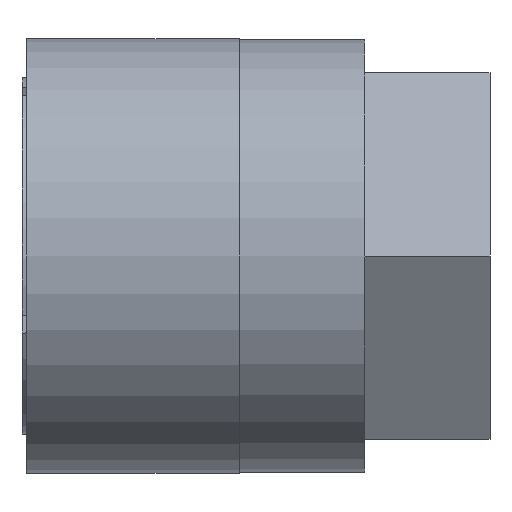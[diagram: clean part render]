
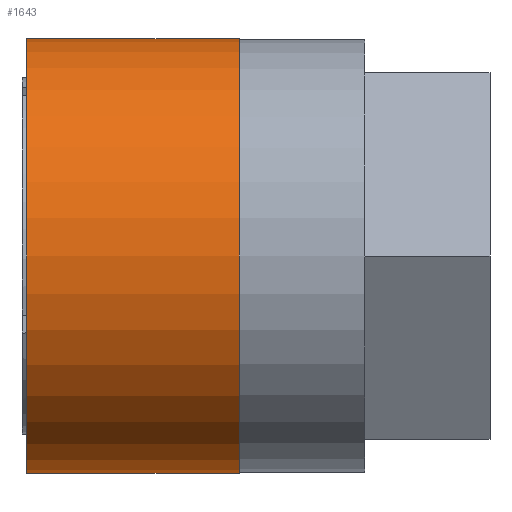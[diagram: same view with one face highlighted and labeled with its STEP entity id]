
A CAD part, front view. The second image highlights one B-rep face of the part: STEP entity #1643.
In plain terms, the highlighted cylindrical face has radius 22.5 mm (diameter 45 mm), a partial arc.
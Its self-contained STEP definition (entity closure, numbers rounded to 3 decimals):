
#78 = ORIENTED_EDGE ( 'NONE', *, *, #287, .F. ) ;
#81 = ORIENTED_EDGE ( 'NONE', *, *, #284, .F. ) ;
#82 = ORIENTED_EDGE ( 'NONE', *, *, #281, .T. ) ;
#98 = ORIENTED_EDGE ( 'NONE', *, *, #286, .T. ) ;
#134 = AXIS2_PLACEMENT_3D ( 'NONE', #613, #639, #548 ) ;
#281 = EDGE_CURVE ( 'NONE', #935, #357, #1013, .T. ) ;
#284 = EDGE_CURVE ( 'NONE', #935, #934, #1011, .T. ) ;
#286 = EDGE_CURVE ( 'NONE', #357, #883, #1010, .T. ) ;
#287 = EDGE_CURVE ( 'NONE', #934, #883, #1023, .T. ) ;
#357 = VERTEX_POINT ( 'NONE', #471 ) ;
#396 = DIRECTION ( 'NONE',  ( 0., 0., 1. ) ) ;
#409 = DIRECTION ( 'NONE',  ( -1., 0., 0. ) ) ;
#412 = CARTESIAN_POINT ( 'NONE',  ( 0., 0., 22.5 ) ) ;
#413 = CARTESIAN_POINT ( 'NONE',  ( 0., 0., -22.5 ) ) ;
#446 = DIRECTION ( 'NONE',  ( -1., 0., 0. ) ) ;
#462 = CARTESIAN_POINT ( 'NONE',  ( 22.5, 0., 0. ) ) ;
#469 = DIRECTION ( 'NONE',  ( -1., 0., 0. ) ) ;
#471 = CARTESIAN_POINT ( 'NONE',  ( 22.5, 0., 22.5 ) ) ;
#482 = CARTESIAN_POINT ( 'NONE',  ( 0.5, 0., 22.5 ) ) ;
#484 = DIRECTION ( 'NONE',  ( 0., 0., 1. ) ) ;
#491 = CARTESIAN_POINT ( 'NONE',  ( 22.5, 0., -22.5 ) ) ;
#540 = CARTESIAN_POINT ( 'NONE',  ( 0.5, 0., -22.5 ) ) ;
#545 = CARTESIAN_POINT ( 'NONE',  ( 0.5, 0., 0. ) ) ;
#548 = DIRECTION ( 'NONE',  ( 0., 0., 1. ) ) ;
#559 = DIRECTION ( 'NONE',  ( -1., 0., 0. ) ) ;
#613 = CARTESIAN_POINT ( 'NONE',  ( 0., 0., 0. ) ) ;
#639 = DIRECTION ( 'NONE',  ( -1., 0., 0. ) ) ;
#883 = VERTEX_POINT ( 'NONE', #482 ) ;
#934 = VERTEX_POINT ( 'NONE', #540 ) ;
#935 = VERTEX_POINT ( 'NONE', #491 ) ;
#1007 = VECTOR ( 'NONE', #559, 1000. ) ;
#1010 = LINE ( 'NONE', #412, #1007 ) ;
#1011 = LINE ( 'NONE', #413, #1014 ) ;
#1013 = CIRCLE ( 'NONE', #1290, 22.5 ) ;
#1014 = VECTOR ( 'NONE', #446, 1000. ) ;
#1023 = CIRCLE ( 'NONE', #1285, 22.5 ) ;
#1054 = FACE_OUTER_BOUND ( 'NONE', #1409, .T. ) ;
#1057 = CYLINDRICAL_SURFACE ( 'NONE', #134, 22.5 ) ;
#1285 = AXIS2_PLACEMENT_3D ( 'NONE', #545, #469, #484 ) ;
#1290 = AXIS2_PLACEMENT_3D ( 'NONE', #462, #409, #396 ) ;
#1409 = EDGE_LOOP ( 'NONE', ( #81, #82, #98, #78 ) ) ;
#1643 = ADVANCED_FACE ( 'NONE', ( #1054 ), #1057, .T. ) ;
